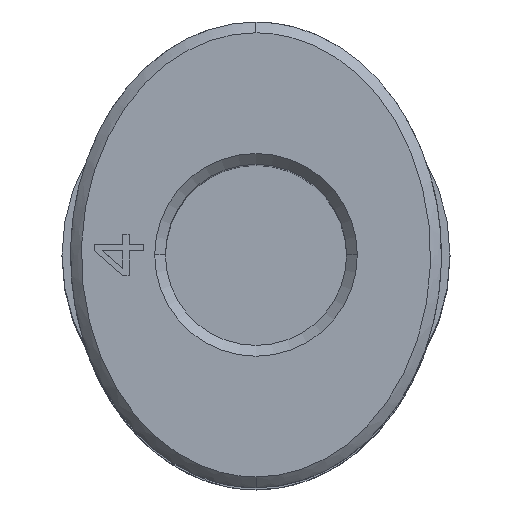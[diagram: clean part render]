
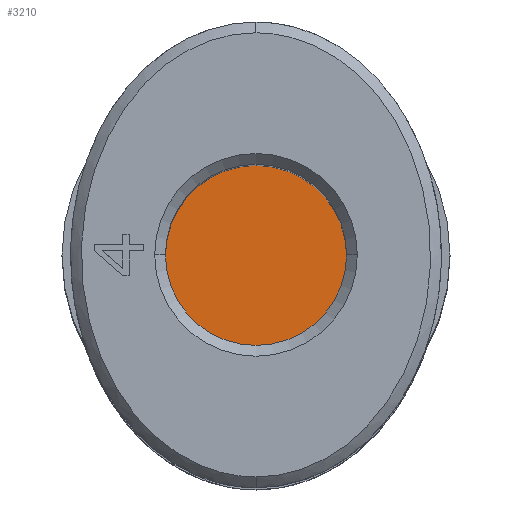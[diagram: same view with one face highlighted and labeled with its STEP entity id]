
A CAD part, top view. The second image highlights one B-rep face of the part: STEP entity #3210.
In plain terms, the highlighted planar face has unit normal (0, 0, 1).
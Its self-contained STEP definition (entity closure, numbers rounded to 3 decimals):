
#1219=CARTESIAN_POINT('',(0.,0.,0.6));
#1220=DIRECTION('',(0.,0.,1.));
#1221=DIRECTION('',(1.,0.,0.));
#1222=AXIS2_PLACEMENT_3D('',#1219,#1220,#1221);
#1224=CARTESIAN_POINT('',(0.,0.,0.6));
#1225=DIRECTION('',(0.,0.,1.));
#1226=DIRECTION('',(-1.,0.,0.));
#1227=AXIS2_PLACEMENT_3D('',#1224,#1225,#1226);
#1481=CARTESIAN_POINT('',(2.1,0.,0.6));
#1482=CARTESIAN_POINT('',(-2.1,0.,0.6));
#1483=VERTEX_POINT('',#1481);
#1484=VERTEX_POINT('',#1482);
#3201=CARTESIAN_POINT('',(0.,0.,0.6));
#3202=DIRECTION('',(0.,0.,1.));
#3203=DIRECTION('',(1.,0.,0.));
#3204=AXIS2_PLACEMENT_3D('',#3201,#3202,#3203);
#3205=PLANE('',#3204);
#3206=ORIENTED_EDGE('',*,*,#3181,.F.);
#3207=ORIENTED_EDGE('',*,*,#3195,.F.);
#3208=EDGE_LOOP('',(#3206,#3207));
#3209=FACE_OUTER_BOUND('',#3208,.F.);
#1223=CIRCLE('',#1222,2.1);
#1228=CIRCLE('',#1227,2.1);
#3181=EDGE_CURVE('',#1483,#1484,#1223,.T.);
#3195=EDGE_CURVE('',#1484,#1483,#1228,.T.);
#3210=ADVANCED_FACE('',(#3209),#3205,.T.);
